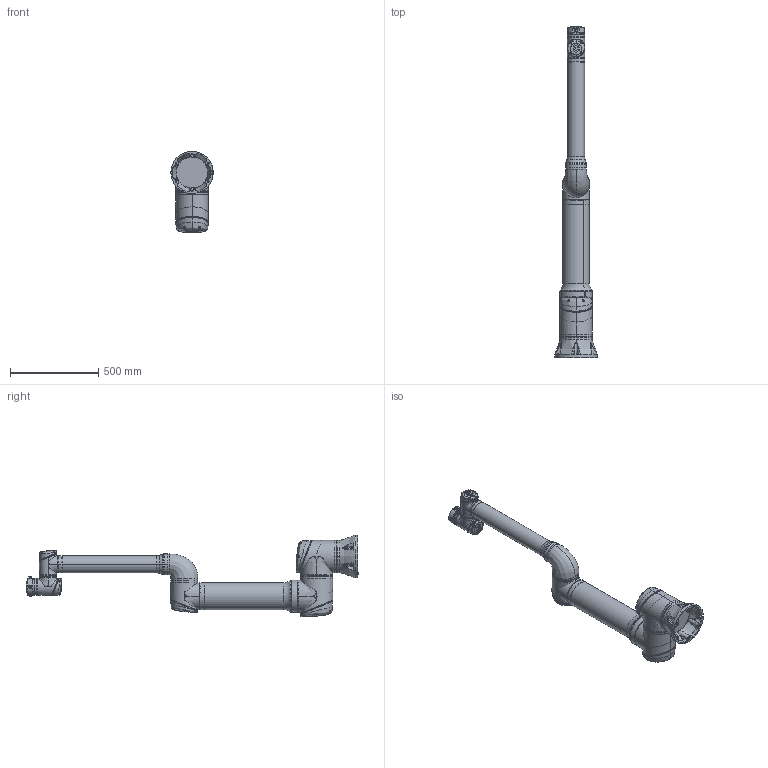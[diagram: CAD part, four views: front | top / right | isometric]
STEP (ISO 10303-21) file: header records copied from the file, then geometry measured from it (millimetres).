
FILE_DESCRIPTION (( 'STEP AP203' ), '1' );
FILE_NAME ('CS_掛极CS530H_V1.2.STEP', '2025-06-26T03:53:07', ( '' ), ( '' ), 'SwSTEP 2.0', 'SolidWorks 2017', '' );
FILE_SCHEMA (( 'CONFIG_CONTROL_DESIGN' ));
Length unit declared in the file: millimetre
Products named in the file (7): CS530H-J4; CS530H-J3; CS_掛极CS530H_V1.2; CS530H-Flange; CS530H-J1; CS530H-Base; CS530H-J2
Assembly tree (6 placements, depth 2):
  CS_掛极CS530H_V1.2
    CS530H-J4
    CS530H-J3
    CS530H-J2
    CS530H-J1
    CS530H-Base
    CS530H-Flange
Bounding box: 239.64 x 1882 x 461.05 mm (x, y, z)
Volume: 10731394.7 mm3; surface area: 1936611.7 mm2
Topology: 28 solids, 98 shells, 5502 faces, 13105 edges, 7894 vertices
Faces by surface type: bspline 2171, plane 1505, cylinder 1125, cone 384, torus 170, sphere 147
Entity records: 293040 total; most frequent: CARTESIAN_POINT 183007, ORIENTED_EDGE 25767, DIRECTION 18626, EDGE_CURVE 12898, VERTEX_POINT 7864, AXIS2_PLACEMENT_3D 7695, EDGE_LOOP 5864, ADVANCED_FACE 5502
